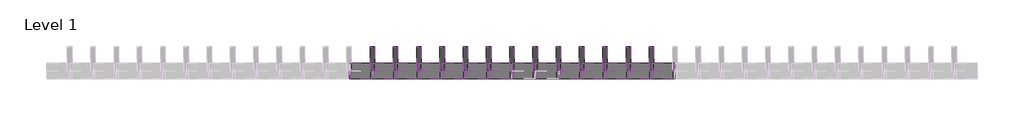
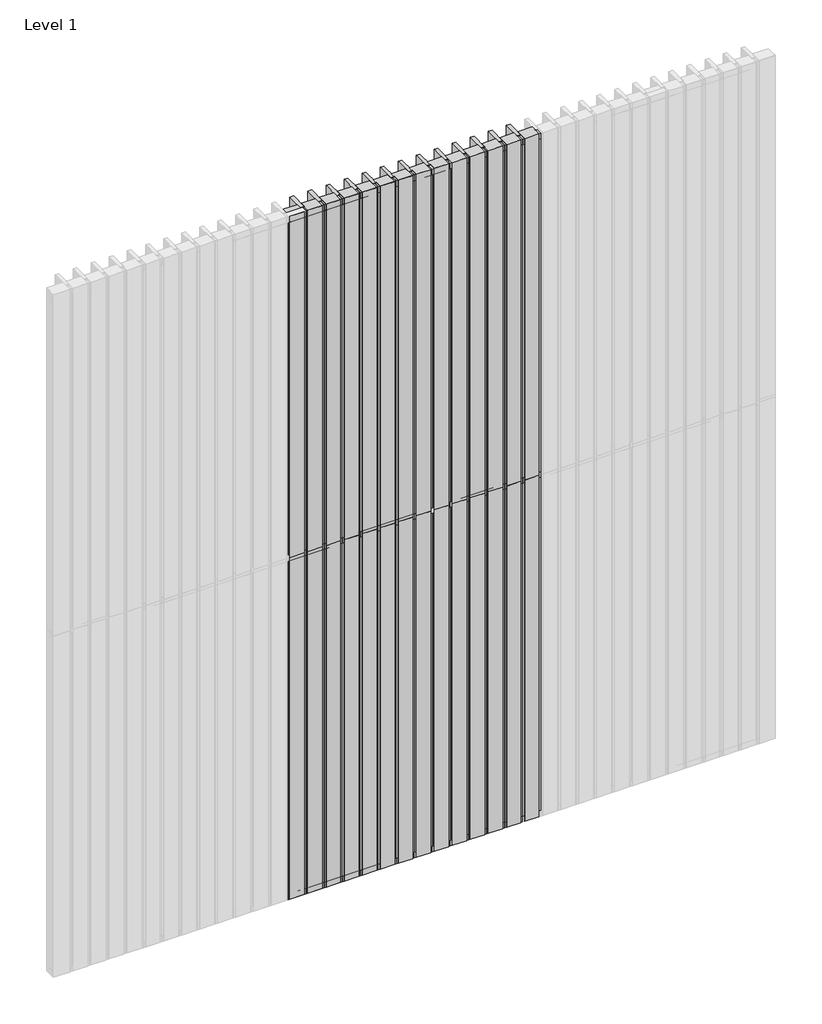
# One storey, part 2 of 3: 63 members, 56 plates.
"""IFC4 building model written with IfcOpenShell, lengths in millimetres."""

from ifc_helpers import new_model, si_unit, origin, place, context, project, spatial, transform, mapped, element, save
from components import rectangular_mullion_4e9be6f4, rectangular_mullion_6265e8b1, rectangular_mullion_64cc6fdd, rectangular_mullion_eb4a5411, empty_system_panel_empty_cb8e8c2e, empty_system_panel_empty_64907904

model = new_model("IFC4")

# Units and contexts
model_context = context("Model", 3, world=origin())
ifc_project = project(units=[si_unit("LENGTHUNIT", "METRE", prefix="MILLI")], contexts=[model_context])

# Site, building, storey
site = spatial("IfcSite", under=ifc_project)
building = spatial("IfcBuilding", under=site)
storey = spatial("IfcBuildingStorey", under=building, Name="Level 1", Elevation=0.0)

# Members
placement = place(None, origin())
rectangular_mullion_shape = rectangular_mullion_4e9be6f4(model_context)
element("IfcMember", 1, ObjectType="Rectangular Mullion : RSen_21_CWM_blade - cubic 150 - 0°_gen_duco projects", at=placement, inside=storey, context=model_context, shape_type="MappedRepresentation", body=[
    mapped(rectangular_mullion_shape, transform((3900.0, 3000.0, 0.0), x_axis=(-1.0, 0.0, 0.0), y_axis=(0.0, 1.0, 0.0), z_axis=(0.0, 0.0, -1.0))),
])
element("IfcMember", 2, ObjectType="Rectangular Mullion : RSen_21_CWM_blade - cubic 150 - 0°_gen_duco projects", at=placement, inside=storey, context=model_context, shape_type="MappedRepresentation", body=[
    mapped(rectangular_mullion_shape, transform((3750.0, 3000.0, 0.0), x_axis=(-1.0, 0.0, 0.0), y_axis=(0.0, 1.0, 0.0), z_axis=(0.0, 0.0, -1.0))),
])
element("IfcMember", 3, ObjectType="Rectangular Mullion : RSen_21_CWM_blade - cubic 150 - 0°_gen_duco projects", at=placement, inside=storey, context=model_context, shape_type="MappedRepresentation", body=[
    mapped(rectangular_mullion_shape, transform((3600.0, 3000.0, 0.0), x_axis=(-1.0, 0.0, 0.0), y_axis=(0.0, 1.0, 0.0), z_axis=(0.0, 0.0, -1.0))),
])
element("IfcMember", 4, ObjectType="Rectangular Mullion : RSen_21_CWM_blade - cubic 150 - 0°_gen_duco projects", at=placement, inside=storey, context=model_context, shape_type="MappedRepresentation", body=[
    mapped(rectangular_mullion_shape, transform((3450.0, 3000.0, 0.0), x_axis=(-1.0, 0.0, 0.0), y_axis=(0.0, 1.0, 0.0), z_axis=(0.0, 0.0, -1.0))),
])
element("IfcMember", 5, ObjectType="Rectangular Mullion : RSen_21_CWM_blade - cubic 150 - 0°_gen_duco projects", at=placement, inside=storey, context=model_context, shape_type="MappedRepresentation", body=[
    mapped(rectangular_mullion_shape, transform((3300.0, 3000.0, 0.0), x_axis=(-1.0, 0.0, 0.0), y_axis=(0.0, 1.0, 0.0), z_axis=(0.0, 0.0, -1.0))),
])
element("IfcMember", 6, ObjectType="Rectangular Mullion : RSen_21_CWM_blade - cubic 150 - 0°_gen_duco projects", at=placement, inside=storey, context=model_context, shape_type="MappedRepresentation", body=[
    mapped(rectangular_mullion_shape, transform((3150.0, 3000.0, 0.0), x_axis=(-1.0, 0.0, 0.0), y_axis=(0.0, 1.0, 0.0), z_axis=(0.0, 0.0, -1.0))),
])
element("IfcMember", 7, ObjectType="Rectangular Mullion : RSen_21_CWM_blade - cubic 150 - 0°_gen_duco projects", at=placement, inside=storey, context=model_context, shape_type="MappedRepresentation", body=[
    mapped(rectangular_mullion_shape, transform((3000.0, 3000.0, 0.0), x_axis=(-1.0, 0.0, 0.0), y_axis=(0.0, 1.0, 0.0), z_axis=(0.0, 0.0, -1.0))),
])
element("IfcMember", 8, ObjectType="Rectangular Mullion : RSen_21_CWM_blade - cubic 150 - 0°_gen_duco projects", at=placement, inside=storey, context=model_context, shape_type="MappedRepresentation", body=[
    mapped(rectangular_mullion_shape, transform((2850.0, 3000.0, 0.0), x_axis=(-1.0, 0.0, 0.0), y_axis=(0.0, 1.0, 0.0), z_axis=(0.0, 0.0, -1.0))),
])
element("IfcMember", 9, ObjectType="Rectangular Mullion : RSen_21_CWM_blade - cubic 150 - 0°_gen_duco projects", at=placement, inside=storey, context=model_context, shape_type="MappedRepresentation", body=[
    mapped(rectangular_mullion_shape, transform((2700.0, 3000.0, 0.0), x_axis=(-1.0, 0.0, 0.0), y_axis=(0.0, 1.0, 0.0), z_axis=(0.0, 0.0, -1.0))),
])
element("IfcMember", 10, ObjectType="Rectangular Mullion : RSen_21_CWM_blade - cubic 150 - 0°_gen_duco projects", at=placement, inside=storey, context=model_context, shape_type="MappedRepresentation", body=[
    mapped(rectangular_mullion_shape, transform((2550.0, 3000.0, 0.0), x_axis=(-1.0, 0.0, 0.0), y_axis=(0.0, 1.0, 0.0), z_axis=(0.0, 0.0, -1.0))),
])
element("IfcMember", 11, ObjectType="Rectangular Mullion : RSen_21_CWM_blade - cubic 150 - 0°_gen_duco projects", at=placement, inside=storey, context=model_context, shape_type="MappedRepresentation", body=[
    mapped(rectangular_mullion_shape, transform((2400.0, 3000.0, 0.0), x_axis=(-1.0, 0.0, 0.0), y_axis=(0.0, 1.0, 0.0), z_axis=(0.0, 0.0, -1.0))),
])
element("IfcMember", 12, ObjectType="Rectangular Mullion : RSen_21_CWM_blade - cubic 150 - 0°_gen_duco projects", at=placement, inside=storey, context=model_context, shape_type="MappedRepresentation", body=[
    mapped(rectangular_mullion_shape, transform((2250.0, 3000.0, 0.0), x_axis=(-1.0, 0.0, 0.0), y_axis=(0.0, 1.0, 0.0), z_axis=(0.0, 0.0, -1.0))),
])
element("IfcMember", 13, ObjectType="Rectangular Mullion : RSen_21_CWM_blade - cubic 150 - 0°_gen_duco projects", at=placement, inside=storey, context=model_context, shape_type="MappedRepresentation", body=[
    mapped(rectangular_mullion_shape, transform((2100.0, 3000.0, 0.0), x_axis=(-1.0, 0.0, 0.0), y_axis=(0.0, 1.0, 0.0), z_axis=(0.0, 0.0, -1.0))),
])
element("IfcMember", 14, ObjectType="Rectangular Mullion : RSen_21_CWM_blade - cubic 150 - 0°_gen_duco projects", at=placement, inside=storey, context=model_context, shape_type="MappedRepresentation", body=[
    mapped(rectangular_mullion_shape, transform((3900.0, 3000.0, 3000.0), x_axis=(-1.0, 0.0, 0.0), y_axis=(0.0, 1.0, 0.0), z_axis=(0.0, 0.0, -1.0))),
])
element("IfcMember", 15, ObjectType="Rectangular Mullion : RSen_21_CWM_blade - cubic 150 - 0°_gen_duco projects", at=placement, inside=storey, context=model_context, shape_type="MappedRepresentation", body=[
    mapped(rectangular_mullion_shape, transform((3750.0, 3000.0, 3000.0), x_axis=(-1.0, 0.0, 0.0), y_axis=(0.0, 1.0, 0.0), z_axis=(0.0, 0.0, -1.0))),
])
element("IfcMember", 16, ObjectType="Rectangular Mullion : RSen_21_CWM_blade - cubic 150 - 0°_gen_duco projects", at=placement, inside=storey, context=model_context, shape_type="MappedRepresentation", body=[
    mapped(rectangular_mullion_shape, transform((3600.0, 3000.0, 3000.0), x_axis=(-1.0, 0.0, 0.0), y_axis=(0.0, 1.0, 0.0), z_axis=(0.0, 0.0, -1.0))),
])
element("IfcMember", 17, ObjectType="Rectangular Mullion : RSen_21_CWM_blade - cubic 150 - 0°_gen_duco projects", at=placement, inside=storey, context=model_context, shape_type="MappedRepresentation", body=[
    mapped(rectangular_mullion_shape, transform((3450.0, 3000.0, 3000.0), x_axis=(-1.0, 0.0, 0.0), y_axis=(0.0, 1.0, 0.0), z_axis=(0.0, 0.0, -1.0))),
])
element("IfcMember", 18, ObjectType="Rectangular Mullion : RSen_21_CWM_blade - cubic 150 - 0°_gen_duco projects", at=placement, inside=storey, context=model_context, shape_type="MappedRepresentation", body=[
    mapped(rectangular_mullion_shape, transform((3300.0, 3000.0, 3000.0), x_axis=(-1.0, 0.0, 0.0), y_axis=(0.0, 1.0, 0.0), z_axis=(0.0, 0.0, -1.0))),
])
element("IfcMember", 19, ObjectType="Rectangular Mullion : RSen_21_CWM_blade - cubic 150 - 0°_gen_duco projects", at=placement, inside=storey, context=model_context, shape_type="MappedRepresentation", body=[
    mapped(rectangular_mullion_shape, transform((3150.0, 3000.0, 3000.0), x_axis=(-1.0, 0.0, 0.0), y_axis=(0.0, 1.0, 0.0), z_axis=(0.0, 0.0, -1.0))),
])
element("IfcMember", 20, ObjectType="Rectangular Mullion : RSen_21_CWM_blade - cubic 150 - 0°_gen_duco projects", at=placement, inside=storey, context=model_context, shape_type="MappedRepresentation", body=[
    mapped(rectangular_mullion_shape, transform((3000.0, 3000.0, 3000.0), x_axis=(-1.0, 0.0, 0.0), y_axis=(0.0, 1.0, 0.0), z_axis=(0.0, 0.0, -1.0))),
])
element("IfcMember", 21, ObjectType="Rectangular Mullion : RSen_21_CWM_blade - cubic 150 - 0°_gen_duco projects", at=placement, inside=storey, context=model_context, shape_type="MappedRepresentation", body=[
    mapped(rectangular_mullion_shape, transform((2850.0, 3000.0, 3000.0), x_axis=(-1.0, 0.0, 0.0), y_axis=(0.0, 1.0, 0.0), z_axis=(0.0, 0.0, -1.0))),
])
element("IfcMember", 22, ObjectType="Rectangular Mullion : RSen_21_CWM_blade - cubic 150 - 0°_gen_duco projects", at=placement, inside=storey, context=model_context, shape_type="MappedRepresentation", body=[
    mapped(rectangular_mullion_shape, transform((2700.0, 3000.0, 3000.0), x_axis=(-1.0, 0.0, 0.0), y_axis=(0.0, 1.0, 0.0), z_axis=(0.0, 0.0, -1.0))),
])
element("IfcMember", 23, ObjectType="Rectangular Mullion : RSen_21_CWM_blade - cubic 150 - 0°_gen_duco projects", at=placement, inside=storey, context=model_context, shape_type="MappedRepresentation", body=[
    mapped(rectangular_mullion_shape, transform((2550.0, 3000.0, 3000.0), x_axis=(-1.0, 0.0, 0.0), y_axis=(0.0, 1.0, 0.0), z_axis=(0.0, 0.0, -1.0))),
])
element("IfcMember", 24, ObjectType="Rectangular Mullion : RSen_21_CWM_blade - cubic 150 - 0°_gen_duco projects", at=placement, inside=storey, context=model_context, shape_type="MappedRepresentation", body=[
    mapped(rectangular_mullion_shape, transform((2400.0, 3000.0, 3000.0), x_axis=(-1.0, 0.0, 0.0), y_axis=(0.0, 1.0, 0.0), z_axis=(0.0, 0.0, -1.0))),
])
element("IfcMember", 25, ObjectType="Rectangular Mullion : RSen_21_CWM_blade - cubic 150 - 0°_gen_duco projects", at=placement, inside=storey, context=model_context, shape_type="MappedRepresentation", body=[
    mapped(rectangular_mullion_shape, transform((2250.0, 3000.0, 3000.0), x_axis=(-1.0, 0.0, 0.0), y_axis=(0.0, 1.0, 0.0), z_axis=(0.0, 0.0, -1.0))),
])
element("IfcMember", 26, ObjectType="Rectangular Mullion : RSen_21_CWM_blade - cubic 150 - 0°_gen_duco projects", at=placement, inside=storey, context=model_context, shape_type="MappedRepresentation", body=[
    mapped(rectangular_mullion_shape, transform((2100.0, 3000.0, 3000.0), x_axis=(-1.0, 0.0, 0.0), y_axis=(0.0, 1.0, 0.0), z_axis=(0.0, 0.0, -1.0))),
])
rectangular_mullion_2_shape = rectangular_mullion_6265e8b1(model_context)
element("IfcMember", 27, ObjectType="Rectangular Mullion : RSen_21_CWM_support profile 50x50 - left_gen_duco projects", at=placement, inside=storey, context=model_context, shape_type="MappedRepresentation", body=[
    mapped(rectangular_mullion_2_shape, transform((3900.0, 3000.0, 6000.0), x_axis=(0.0, 0.0, 1.0), y_axis=(0.0, 1.0, 0.0), z_axis=(-1.0, 0.0, 0.0))),
])
element("IfcMember", 28, ObjectType="Rectangular Mullion : RSen_21_CWM_support profile 50x50 - left_gen_duco projects", at=placement, inside=storey, context=model_context, shape_type="MappedRepresentation", body=[
    mapped(rectangular_mullion_2_shape, transform((3750.0, 3000.0, 6000.0), x_axis=(0.0, 0.0, 1.0), y_axis=(0.0, 1.0, 0.0), z_axis=(-1.0, 0.0, 0.0))),
])
element("IfcMember", 29, ObjectType="Rectangular Mullion : RSen_21_CWM_support profile 50x50 - left_gen_duco projects", at=placement, inside=storey, context=model_context, shape_type="MappedRepresentation", body=[
    mapped(rectangular_mullion_2_shape, transform((3600.0, 3000.0, 6000.0), x_axis=(0.0, 0.0, 1.0), y_axis=(0.0, 1.0, 0.0), z_axis=(-1.0, 0.0, 0.0))),
])
element("IfcMember", 30, ObjectType="Rectangular Mullion : RSen_21_CWM_support profile 50x50 - left_gen_duco projects", at=placement, inside=storey, context=model_context, shape_type="MappedRepresentation", body=[
    mapped(rectangular_mullion_2_shape, transform((3450.0, 3000.0, 6000.0), x_axis=(0.0, 0.0, 1.0), y_axis=(0.0, 1.0, 0.0), z_axis=(-1.0, 0.0, 0.0))),
])
element("IfcMember", 31, ObjectType="Rectangular Mullion : RSen_21_CWM_support profile 50x50 - left_gen_duco projects", at=placement, inside=storey, context=model_context, shape_type="MappedRepresentation", body=[
    mapped(rectangular_mullion_2_shape, transform((3300.0, 3000.0, 6000.0), x_axis=(0.0, 0.0, 1.0), y_axis=(0.0, 1.0, 0.0), z_axis=(-1.0, 0.0, 0.0))),
])
element("IfcMember", 32, ObjectType="Rectangular Mullion : RSen_21_CWM_support profile 50x50 - left_gen_duco projects", at=placement, inside=storey, context=model_context, shape_type="MappedRepresentation", body=[
    mapped(rectangular_mullion_2_shape, transform((3150.0, 3000.0, 6000.0), x_axis=(0.0, 0.0, 1.0), y_axis=(0.0, 1.0, 0.0), z_axis=(-1.0, 0.0, 0.0))),
])
element("IfcMember", 33, ObjectType="Rectangular Mullion : RSen_21_CWM_support profile 50x50 - left_gen_duco projects", at=placement, inside=storey, context=model_context, shape_type="MappedRepresentation", body=[
    mapped(rectangular_mullion_2_shape, transform((3000.0, 3000.0, 6000.0), x_axis=(0.0, 0.0, 1.0), y_axis=(0.0, 1.0, 0.0), z_axis=(-1.0, 0.0, 0.0))),
])
element("IfcMember", 34, ObjectType="Rectangular Mullion : RSen_21_CWM_support profile 50x50 - left_gen_duco projects", at=placement, inside=storey, context=model_context, shape_type="MappedRepresentation", body=[
    mapped(rectangular_mullion_2_shape, transform((2850.0, 3000.0, 6000.0), x_axis=(0.0, 0.0, 1.0), y_axis=(0.0, 1.0, 0.0), z_axis=(-1.0, 0.0, 0.0))),
])
element("IfcMember", 35, ObjectType="Rectangular Mullion : RSen_21_CWM_support profile 50x50 - left_gen_duco projects", at=placement, inside=storey, context=model_context, shape_type="MappedRepresentation", body=[
    mapped(rectangular_mullion_2_shape, transform((2700.0, 3000.0, 6000.0), x_axis=(0.0, 0.0, 1.0), y_axis=(0.0, 1.0, 0.0), z_axis=(-1.0, 0.0, 0.0))),
])
element("IfcMember", 36, ObjectType="Rectangular Mullion : RSen_21_CWM_support profile 50x50 - left_gen_duco projects", at=placement, inside=storey, context=model_context, shape_type="MappedRepresentation", body=[
    mapped(rectangular_mullion_2_shape, transform((2550.0, 3000.0, 6000.0), x_axis=(0.0, 0.0, 1.0), y_axis=(0.0, 1.0, 0.0), z_axis=(-1.0, 0.0, 0.0))),
])
element("IfcMember", 37, ObjectType="Rectangular Mullion : RSen_21_CWM_support profile 50x50 - left_gen_duco projects", at=placement, inside=storey, context=model_context, shape_type="MappedRepresentation", body=[
    mapped(rectangular_mullion_2_shape, transform((2400.0, 3000.0, 6000.0), x_axis=(0.0, 0.0, 1.0), y_axis=(0.0, 1.0, 0.0), z_axis=(-1.0, 0.0, 0.0))),
])
element("IfcMember", 38, ObjectType="Rectangular Mullion : RSen_21_CWM_support profile 50x50 - left_gen_duco projects", at=placement, inside=storey, context=model_context, shape_type="MappedRepresentation", body=[
    mapped(rectangular_mullion_2_shape, transform((2250.0, 3000.0, 6000.0), x_axis=(0.0, 0.0, 1.0), y_axis=(0.0, 1.0, 0.0), z_axis=(-1.0, 0.0, 0.0))),
])
element("IfcMember", 39, ObjectType="Rectangular Mullion : RSen_21_CWM_support profile 50x50 - left_gen_duco projects", at=placement, inside=storey, context=model_context, shape_type="MappedRepresentation", body=[
    mapped(rectangular_mullion_2_shape, transform((2100.0, 3000.0, 6000.0), x_axis=(0.0, 0.0, 1.0), y_axis=(0.0, 1.0, 0.0), z_axis=(-1.0, 0.0, 0.0))),
])
rectangular_mullion_3_shape = rectangular_mullion_64cc6fdd(model_context)
element("IfcMember", 40, ObjectType="Rectangular Mullion : RSen_21_CWM_support profile 50x50 - right_gen_duco projects", at=placement, inside=storey, context=model_context, shape_type="MappedRepresentation", body=[
    mapped(rectangular_mullion_3_shape, transform((3900.0, 3000.0, 0.0), x_axis=(0.0, 0.0, -1.0), y_axis=(0.0, 1.0, 0.0), z_axis=(1.0, 0.0, 0.0))),
])
element("IfcMember", 41, ObjectType="Rectangular Mullion : RSen_21_CWM_support profile 50x50 - right_gen_duco projects", at=placement, inside=storey, context=model_context, shape_type="MappedRepresentation", body=[
    mapped(rectangular_mullion_3_shape, transform((3750.0, 3000.0, 0.0), x_axis=(0.0, 0.0, -1.0), y_axis=(0.0, 1.0, 0.0), z_axis=(1.0, 0.0, 0.0))),
])
element("IfcMember", 42, ObjectType="Rectangular Mullion : RSen_21_CWM_support profile 50x50 - right_gen_duco projects", at=placement, inside=storey, context=model_context, shape_type="MappedRepresentation", body=[
    mapped(rectangular_mullion_3_shape, transform((3600.0, 3000.0, 0.0), x_axis=(0.0, 0.0, -1.0), y_axis=(0.0, 1.0, 0.0), z_axis=(1.0, 0.0, 0.0))),
])
element("IfcMember", 43, ObjectType="Rectangular Mullion : RSen_21_CWM_support profile 50x50 - right_gen_duco projects", at=placement, inside=storey, context=model_context, shape_type="MappedRepresentation", body=[
    mapped(rectangular_mullion_3_shape, transform((3450.0, 3000.0, 0.0), x_axis=(0.0, 0.0, -1.0), y_axis=(0.0, 1.0, 0.0), z_axis=(1.0, 0.0, 0.0))),
])
element("IfcMember", 44, ObjectType="Rectangular Mullion : RSen_21_CWM_support profile 50x50 - right_gen_duco projects", at=placement, inside=storey, context=model_context, shape_type="MappedRepresentation", body=[
    mapped(rectangular_mullion_3_shape, transform((3300.0, 3000.0, 0.0), x_axis=(0.0, 0.0, -1.0), y_axis=(0.0, 1.0, 0.0), z_axis=(1.0, 0.0, 0.0))),
])
element("IfcMember", 45, ObjectType="Rectangular Mullion : RSen_21_CWM_support profile 50x50 - right_gen_duco projects", at=placement, inside=storey, context=model_context, shape_type="MappedRepresentation", body=[
    mapped(rectangular_mullion_3_shape, transform((3150.0, 3000.0, 0.0), x_axis=(0.0, 0.0, -1.0), y_axis=(0.0, 1.0, 0.0), z_axis=(1.0, 0.0, 0.0))),
])
element("IfcMember", 46, ObjectType="Rectangular Mullion : RSen_21_CWM_support profile 50x50 - right_gen_duco projects", at=placement, inside=storey, context=model_context, shape_type="MappedRepresentation", body=[
    mapped(rectangular_mullion_3_shape, transform((3000.0, 3000.0, 0.0), x_axis=(0.0, 0.0, -1.0), y_axis=(0.0, 1.0, 0.0), z_axis=(1.0, 0.0, 0.0))),
])
element("IfcMember", 47, ObjectType="Rectangular Mullion : RSen_21_CWM_support profile 50x50 - right_gen_duco projects", at=placement, inside=storey, context=model_context, shape_type="MappedRepresentation", body=[
    mapped(rectangular_mullion_3_shape, transform((2850.0, 3000.0, 0.0), x_axis=(0.0, 0.0, -1.0), y_axis=(0.0, 1.0, 0.0), z_axis=(1.0, 0.0, 0.0))),
])
element("IfcMember", 48, ObjectType="Rectangular Mullion : RSen_21_CWM_support profile 50x50 - right_gen_duco projects", at=placement, inside=storey, context=model_context, shape_type="MappedRepresentation", body=[
    mapped(rectangular_mullion_3_shape, transform((2700.0, 3000.0, 0.0), x_axis=(0.0, 0.0, -1.0), y_axis=(0.0, 1.0, 0.0), z_axis=(1.0, 0.0, 0.0))),
])
element("IfcMember", 49, ObjectType="Rectangular Mullion : RSen_21_CWM_support profile 50x50 - right_gen_duco projects", at=placement, inside=storey, context=model_context, shape_type="MappedRepresentation", body=[
    mapped(rectangular_mullion_3_shape, transform((2550.0, 3000.0, 0.0), x_axis=(0.0, 0.0, -1.0), y_axis=(0.0, 1.0, 0.0), z_axis=(1.0, 0.0, 0.0))),
])
element("IfcMember", 50, ObjectType="Rectangular Mullion : RSen_21_CWM_support profile 50x50 - right_gen_duco projects", at=placement, inside=storey, context=model_context, shape_type="MappedRepresentation", body=[
    mapped(rectangular_mullion_3_shape, transform((2400.0, 3000.0, 0.0), x_axis=(0.0, 0.0, -1.0), y_axis=(0.0, 1.0, 0.0), z_axis=(1.0, 0.0, 0.0))),
])
element("IfcMember", 51, ObjectType="Rectangular Mullion : RSen_21_CWM_support profile 50x50 - right_gen_duco projects", at=placement, inside=storey, context=model_context, shape_type="MappedRepresentation", body=[
    mapped(rectangular_mullion_3_shape, transform((2250.0, 3000.0, 0.0), x_axis=(0.0, 0.0, -1.0), y_axis=(0.0, 1.0, 0.0), z_axis=(1.0, 0.0, 0.0))),
])
element("IfcMember", 52, ObjectType="Rectangular Mullion : RSen_21_CWM_support profile 50x50 - right_gen_duco projects", at=placement, inside=storey, context=model_context, shape_type="MappedRepresentation", body=[
    mapped(rectangular_mullion_3_shape, transform((2100.0, 3000.0, 0.0), x_axis=(0.0, 0.0, -1.0), y_axis=(0.0, 1.0, 0.0), z_axis=(1.0, 0.0, 0.0))),
])
rectangular_mullion_4_shape = rectangular_mullion_eb4a5411(model_context)
element("IfcMember", 53, ObjectType="Rectangular Mullion : RSen_21_CWM_support profile 50x50_gen_duco projects", at=placement, inside=storey, context=model_context, shape_type="MappedRepresentation", body=[
    mapped(rectangular_mullion_4_shape, transform((3900.0, 3000.0, 3000.0), x_axis=(0.0, 0.0, 1.0), y_axis=(0.0, 1.0, 0.0), z_axis=(-1.0, 0.0, 0.0))),
])
element("IfcMember", 54, ObjectType="Rectangular Mullion : RSen_21_CWM_support profile 50x50_gen_duco projects", at=placement, inside=storey, context=model_context, shape_type="MappedRepresentation", body=[
    mapped(rectangular_mullion_4_shape, transform((3750.0, 3000.0, 3000.0), x_axis=(0.0, 0.0, 1.0), y_axis=(0.0, 1.0, 0.0), z_axis=(-1.0, 0.0, 0.0))),
])
element("IfcMember", 55, ObjectType="Rectangular Mullion : RSen_21_CWM_support profile 50x50_gen_duco projects", at=placement, inside=storey, context=model_context, shape_type="MappedRepresentation", body=[
    mapped(rectangular_mullion_4_shape, transform((3600.0, 3000.0, 3000.0), x_axis=(0.0, 0.0, 1.0), y_axis=(0.0, 1.0, 0.0), z_axis=(-1.0, 0.0, 0.0))),
])
element("IfcMember", 56, ObjectType="Rectangular Mullion : RSen_21_CWM_support profile 50x50_gen_duco projects", at=placement, inside=storey, context=model_context, shape_type="MappedRepresentation", body=[
    mapped(rectangular_mullion_4_shape, transform((3450.0, 3000.0, 3000.0), x_axis=(0.0, 0.0, 1.0), y_axis=(0.0, 1.0, 0.0), z_axis=(-1.0, 0.0, 0.0))),
])
element("IfcMember", 57, ObjectType="Rectangular Mullion : RSen_21_CWM_support profile 50x50_gen_duco projects", at=placement, inside=storey, context=model_context, shape_type="MappedRepresentation", body=[
    mapped(rectangular_mullion_4_shape, transform((3300.0, 3000.0, 3000.0), x_axis=(0.0, 0.0, 1.0), y_axis=(0.0, 1.0, 0.0), z_axis=(-1.0, 0.0, 0.0))),
])
element("IfcMember", 58, ObjectType="Rectangular Mullion : RSen_21_CWM_support profile 50x50_gen_duco projects", at=placement, inside=storey, context=model_context, shape_type="MappedRepresentation", body=[
    mapped(rectangular_mullion_4_shape, transform((2850.0, 3000.0, 3000.0), x_axis=(0.0, 0.0, 1.0), y_axis=(0.0, 1.0, 0.0), z_axis=(-1.0, 0.0, 0.0))),
])
element("IfcMember", 59, ObjectType="Rectangular Mullion : RSen_21_CWM_support profile 50x50_gen_duco projects", at=placement, inside=storey, context=model_context, shape_type="MappedRepresentation", body=[
    mapped(rectangular_mullion_4_shape, transform((2700.0, 3000.0, 3000.0), x_axis=(0.0, 0.0, 1.0), y_axis=(0.0, 1.0, 0.0), z_axis=(-1.0, 0.0, 0.0))),
])
element("IfcMember", 60, ObjectType="Rectangular Mullion : RSen_21_CWM_support profile 50x50_gen_duco projects", at=placement, inside=storey, context=model_context, shape_type="MappedRepresentation", body=[
    mapped(rectangular_mullion_4_shape, transform((2550.0, 3000.0, 3000.0), x_axis=(0.0, 0.0, 1.0), y_axis=(0.0, 1.0, 0.0), z_axis=(-1.0, 0.0, 0.0))),
])
element("IfcMember", 61, ObjectType="Rectangular Mullion : RSen_21_CWM_support profile 50x50_gen_duco projects", at=placement, inside=storey, context=model_context, shape_type="MappedRepresentation", body=[
    mapped(rectangular_mullion_4_shape, transform((2400.0, 3000.0, 3000.0), x_axis=(0.0, 0.0, 1.0), y_axis=(0.0, 1.0, 0.0), z_axis=(-1.0, 0.0, 0.0))),
])
element("IfcMember", 62, ObjectType="Rectangular Mullion : RSen_21_CWM_support profile 50x50_gen_duco projects", at=placement, inside=storey, context=model_context, shape_type="MappedRepresentation", body=[
    mapped(rectangular_mullion_4_shape, transform((2250.0, 3000.0, 3000.0), x_axis=(0.0, 0.0, 1.0), y_axis=(0.0, 1.0, 0.0), z_axis=(-1.0, 0.0, 0.0))),
])
element("IfcMember", 63, ObjectType="Rectangular Mullion : RSen_21_CWM_support profile 50x50_gen_duco projects", at=placement, inside=storey, context=model_context, shape_type="MappedRepresentation", body=[
    mapped(rectangular_mullion_4_shape, transform((2100.0, 3000.0, 3000.0), x_axis=(0.0, 0.0, 1.0), y_axis=(0.0, 1.0, 0.0), z_axis=(-1.0, 0.0, 0.0))),
])

# Plates
empty_system_panel_empty_shape = empty_system_panel_empty_cb8e8c2e(model_context)
element("IfcPlate", 64, ObjectType="Empty System Panel : Empty", at=placement, inside=storey, context=model_context, shape_type="MappedRepresentation", body=[
    mapped(empty_system_panel_empty_shape, transform((3975.0, 3000.0, 0.0), x_axis=(-1.0, 0.0, 0.0), y_axis=(0.0, -1.0, 0.0), z_axis=(0.0, 0.0, 1.0))),
])
element("IfcPlate", 65, ObjectType="Empty System Panel : Empty", at=placement, inside=storey, context=model_context, shape_type="MappedRepresentation", body=[
    mapped(empty_system_panel_empty_shape, transform((3825.0, 3000.0, 0.0), x_axis=(-1.0, 0.0, 0.0), y_axis=(0.0, -1.0, 0.0), z_axis=(0.0, 0.0, 1.0))),
])
element("IfcPlate", 66, ObjectType="Empty System Panel : Empty", at=placement, inside=storey, context=model_context, shape_type="MappedRepresentation", body=[
    mapped(empty_system_panel_empty_shape, transform((3675.0, 3000.0, 0.0), x_axis=(-1.0, 0.0, 0.0), y_axis=(0.0, -1.0, 0.0), z_axis=(0.0, 0.0, 1.0))),
])
element("IfcPlate", 67, ObjectType="Empty System Panel : Empty", at=placement, inside=storey, context=model_context, shape_type="MappedRepresentation", body=[
    mapped(empty_system_panel_empty_shape, transform((3525.0, 3000.0, 0.0), x_axis=(-1.0, 0.0, 0.0), y_axis=(0.0, -1.0, 0.0), z_axis=(0.0, 0.0, 1.0))),
])
element("IfcPlate", 68, ObjectType="Empty System Panel : Empty", at=placement, inside=storey, context=model_context, shape_type="MappedRepresentation", body=[
    mapped(empty_system_panel_empty_shape, transform((3375.0, 3000.0, 0.0), x_axis=(-1.0, 0.0, 0.0), y_axis=(0.0, -1.0, 0.0), z_axis=(0.0, 0.0, 1.0))),
])
element("IfcPlate", 69, ObjectType="Empty System Panel : Empty", at=placement, inside=storey, context=model_context, shape_type="MappedRepresentation", body=[
    mapped(empty_system_panel_empty_shape, transform((3225.0, 3000.0, 0.0), x_axis=(-1.0, 0.0, 0.0), y_axis=(0.0, -1.0, 0.0), z_axis=(0.0, 0.0, 1.0))),
])
element("IfcPlate", 70, ObjectType="Empty System Panel : Empty", at=placement, inside=storey, context=model_context, shape_type="MappedRepresentation", body=[
    mapped(empty_system_panel_empty_shape, transform((3075.0, 3000.0, 0.0), x_axis=(-1.0, 0.0, 0.0), y_axis=(0.0, -1.0, 0.0), z_axis=(0.0, 0.0, 1.0))),
])
element("IfcPlate", 71, ObjectType="Empty System Panel : Empty", at=placement, inside=storey, context=model_context, shape_type="MappedRepresentation", body=[
    mapped(empty_system_panel_empty_shape, transform((2925.0, 3000.0, 0.0), x_axis=(-1.0, 0.0, 0.0), y_axis=(0.0, -1.0, 0.0), z_axis=(0.0, 0.0, 1.0))),
])
element("IfcPlate", 72, ObjectType="Empty System Panel : Empty", at=placement, inside=storey, context=model_context, shape_type="MappedRepresentation", body=[
    mapped(empty_system_panel_empty_shape, transform((2775.0, 3000.0, 0.0), x_axis=(-1.0, 0.0, 0.0), y_axis=(0.0, -1.0, 0.0), z_axis=(0.0, 0.0, 1.0))),
])
element("IfcPlate", 73, ObjectType="Empty System Panel : Empty", at=placement, inside=storey, context=model_context, shape_type="MappedRepresentation", body=[
    mapped(empty_system_panel_empty_shape, transform((2625.0, 3000.0, 0.0), x_axis=(-1.0, 0.0, 0.0), y_axis=(0.0, -1.0, 0.0), z_axis=(0.0, 0.0, 1.0))),
])
element("IfcPlate", 74, ObjectType="Empty System Panel : Empty", at=placement, inside=storey, context=model_context, shape_type="MappedRepresentation", body=[
    mapped(empty_system_panel_empty_shape, transform((2475.0, 3000.0, 0.0), x_axis=(-1.0, 0.0, 0.0), y_axis=(0.0, -1.0, 0.0), z_axis=(0.0, 0.0, 1.0))),
])
element("IfcPlate", 75, ObjectType="Empty System Panel : Empty", at=placement, inside=storey, context=model_context, shape_type="MappedRepresentation", body=[
    mapped(empty_system_panel_empty_shape, transform((2325.0, 3000.0, 0.0), x_axis=(-1.0, 0.0, 0.0), y_axis=(0.0, -1.0, 0.0), z_axis=(0.0, 0.0, 1.0))),
])
element("IfcPlate", 76, ObjectType="Empty System Panel : Empty", at=placement, inside=storey, context=model_context, shape_type="MappedRepresentation", body=[
    mapped(empty_system_panel_empty_shape, transform((2175.0, 3000.0, 0.0), x_axis=(-1.0, 0.0, 0.0), y_axis=(0.0, -1.0, 0.0), z_axis=(0.0, 0.0, 1.0))),
])
element("IfcPlate", 77, ObjectType="Empty System Panel : Empty", at=placement, inside=storey, context=model_context, shape_type="MappedRepresentation", body=[
    mapped(empty_system_panel_empty_shape, transform((2025.0, 3000.0, 0.0), x_axis=(-1.0, 0.0, 0.0), y_axis=(0.0, -1.0, 0.0), z_axis=(0.0, 0.0, 1.0))),
])
element("IfcPlate", 78, ObjectType="Empty System Panel : Empty", at=placement, inside=storey, context=model_context, shape_type="MappedRepresentation", body=[
    mapped(empty_system_panel_empty_shape, transform((3975.0, 3000.0, 3000.0), x_axis=(-1.0, 0.0, 0.0), y_axis=(0.0, -1.0, 0.0), z_axis=(0.0, 0.0, 1.0))),
])
element("IfcPlate", 79, ObjectType="Empty System Panel : Empty", at=placement, inside=storey, context=model_context, shape_type="MappedRepresentation", body=[
    mapped(empty_system_panel_empty_shape, transform((3825.0, 3000.0, 3000.0), x_axis=(-1.0, 0.0, 0.0), y_axis=(0.0, -1.0, 0.0), z_axis=(0.0, 0.0, 1.0))),
])
element("IfcPlate", 80, ObjectType="Empty System Panel : Empty", at=placement, inside=storey, context=model_context, shape_type="MappedRepresentation", body=[
    mapped(empty_system_panel_empty_shape, transform((3675.0, 3000.0, 3000.0), x_axis=(-1.0, 0.0, 0.0), y_axis=(0.0, -1.0, 0.0), z_axis=(0.0, 0.0, 1.0))),
])
element("IfcPlate", 81, ObjectType="Empty System Panel : Empty", at=placement, inside=storey, context=model_context, shape_type="MappedRepresentation", body=[
    mapped(empty_system_panel_empty_shape, transform((3525.0, 3000.0, 3000.0), x_axis=(-1.0, 0.0, 0.0), y_axis=(0.0, -1.0, 0.0), z_axis=(0.0, 0.0, 1.0))),
])
element("IfcPlate", 82, ObjectType="Empty System Panel : Empty", at=placement, inside=storey, context=model_context, shape_type="MappedRepresentation", body=[
    mapped(empty_system_panel_empty_shape, transform((3375.0, 3000.0, 3000.0), x_axis=(-1.0, 0.0, 0.0), y_axis=(0.0, -1.0, 0.0), z_axis=(0.0, 0.0, 1.0))),
])
element("IfcPlate", 83, ObjectType="Empty System Panel : Empty", at=placement, inside=storey, context=model_context, shape_type="MappedRepresentation", body=[
    mapped(empty_system_panel_empty_shape, transform((3225.0, 3000.0, 3000.0), x_axis=(-1.0, 0.0, 0.0), y_axis=(0.0, -1.0, 0.0), z_axis=(0.0, 0.0, 1.0))),
])
element("IfcPlate", 84, ObjectType="Empty System Panel : Empty", at=placement, inside=storey, context=model_context, shape_type="MappedRepresentation", body=[
    mapped(empty_system_panel_empty_shape, transform((3075.0, 3000.0, 3000.0), x_axis=(-1.0, 0.0, 0.0), y_axis=(0.0, -1.0, 0.0), z_axis=(0.0, 0.0, 1.0))),
])
element("IfcPlate", 85, ObjectType="Empty System Panel : Empty", at=placement, inside=storey, context=model_context, shape_type="MappedRepresentation", body=[
    mapped(empty_system_panel_empty_shape, transform((2925.0, 3000.0, 3000.0), x_axis=(-1.0, 0.0, 0.0), y_axis=(0.0, -1.0, 0.0), z_axis=(0.0, 0.0, 1.0))),
])
element("IfcPlate", 86, ObjectType="Empty System Panel : Empty", at=placement, inside=storey, context=model_context, shape_type="MappedRepresentation", body=[
    mapped(empty_system_panel_empty_shape, transform((2775.0, 3000.0, 3000.0), x_axis=(-1.0, 0.0, 0.0), y_axis=(0.0, -1.0, 0.0), z_axis=(0.0, 0.0, 1.0))),
])
element("IfcPlate", 87, ObjectType="Empty System Panel : Empty", at=placement, inside=storey, context=model_context, shape_type="MappedRepresentation", body=[
    mapped(empty_system_panel_empty_shape, transform((2625.0, 3000.0, 3000.0), x_axis=(-1.0, 0.0, 0.0), y_axis=(0.0, -1.0, 0.0), z_axis=(0.0, 0.0, 1.0))),
])
element("IfcPlate", 88, ObjectType="Empty System Panel : Empty", at=placement, inside=storey, context=model_context, shape_type="MappedRepresentation", body=[
    mapped(empty_system_panel_empty_shape, transform((2475.0, 3000.0, 3000.0), x_axis=(-1.0, 0.0, 0.0), y_axis=(0.0, -1.0, 0.0), z_axis=(0.0, 0.0, 1.0))),
])
element("IfcPlate", 89, ObjectType="Empty System Panel : Empty", at=placement, inside=storey, context=model_context, shape_type="MappedRepresentation", body=[
    mapped(empty_system_panel_empty_shape, transform((2325.0, 3000.0, 3000.0), x_axis=(-1.0, 0.0, 0.0), y_axis=(0.0, -1.0, 0.0), z_axis=(0.0, 0.0, 1.0))),
])
element("IfcPlate", 90, ObjectType="Empty System Panel : Empty", at=placement, inside=storey, context=model_context, shape_type="MappedRepresentation", body=[
    mapped(empty_system_panel_empty_shape, transform((2175.0, 3000.0, 3000.0), x_axis=(-1.0, 0.0, 0.0), y_axis=(0.0, -1.0, 0.0), z_axis=(0.0, 0.0, 1.0))),
])
element("IfcPlate", 91, ObjectType="Empty System Panel : Empty", at=placement, inside=storey, context=model_context, shape_type="MappedRepresentation", body=[
    mapped(empty_system_panel_empty_shape, transform((2025.0, 3000.0, 3000.0), x_axis=(-1.0, 0.0, 0.0), y_axis=(0.0, -1.0, 0.0), z_axis=(0.0, 0.0, 1.0))),
])
empty_system_panel_empty_2_shape = empty_system_panel_empty_64907904(model_context)
element("IfcPlate", 92, ObjectType="Empty System Panel : Empty", at=placement, inside=storey, context=model_context, shape_type="MappedRepresentation", body=[
    mapped(empty_system_panel_empty_2_shape, transform((3975.0, 3000.0, 50.0), x_axis=(-1.0, 0.0, 0.0), y_axis=(0.0, -1.0, 0.0), z_axis=(0.0, 0.0, 1.0))),
])
element("IfcPlate", 93, ObjectType="Empty System Panel : Empty", at=placement, inside=storey, context=model_context, shape_type="MappedRepresentation", body=[
    mapped(empty_system_panel_empty_2_shape, transform((3825.0, 3000.0, 50.0), x_axis=(-1.0, 0.0, 0.0), y_axis=(0.0, -1.0, 0.0), z_axis=(0.0, 0.0, 1.0))),
])
element("IfcPlate", 94, ObjectType="Empty System Panel : Empty", at=placement, inside=storey, context=model_context, shape_type="MappedRepresentation", body=[
    mapped(empty_system_panel_empty_2_shape, transform((3675.0, 3000.0, 50.0), x_axis=(-1.0, 0.0, 0.0), y_axis=(0.0, -1.0, 0.0), z_axis=(0.0, 0.0, 1.0))),
])
element("IfcPlate", 95, ObjectType="Empty System Panel : Empty", at=placement, inside=storey, context=model_context, shape_type="MappedRepresentation", body=[
    mapped(empty_system_panel_empty_2_shape, transform((3525.0, 3000.0, 50.0), x_axis=(-1.0, 0.0, 0.0), y_axis=(0.0, -1.0, 0.0), z_axis=(0.0, 0.0, 1.0))),
])
element("IfcPlate", 96, ObjectType="Empty System Panel : Empty", at=placement, inside=storey, context=model_context, shape_type="MappedRepresentation", body=[
    mapped(empty_system_panel_empty_2_shape, transform((3375.0, 3000.0, 50.0), x_axis=(-1.0, 0.0, 0.0), y_axis=(0.0, -1.0, 0.0), z_axis=(0.0, 0.0, 1.0))),
])
element("IfcPlate", 97, ObjectType="Empty System Panel : Empty", at=placement, inside=storey, context=model_context, shape_type="MappedRepresentation", body=[
    mapped(empty_system_panel_empty_2_shape, transform((3225.0, 3000.0, 50.0), x_axis=(-1.0, 0.0, 0.0), y_axis=(0.0, -1.0, 0.0), z_axis=(0.0, 0.0, 1.0))),
])
element("IfcPlate", 98, ObjectType="Empty System Panel : Empty", at=placement, inside=storey, context=model_context, shape_type="MappedRepresentation", body=[
    mapped(empty_system_panel_empty_2_shape, transform((3075.0, 3000.0, 50.0), x_axis=(-1.0, 0.0, 0.0), y_axis=(0.0, -1.0, 0.0), z_axis=(0.0, 0.0, 1.0))),
])
element("IfcPlate", 99, ObjectType="Empty System Panel : Empty", at=placement, inside=storey, context=model_context, shape_type="MappedRepresentation", body=[
    mapped(empty_system_panel_empty_2_shape, transform((2925.0, 3000.0, 50.0), x_axis=(-1.0, 0.0, 0.0), y_axis=(0.0, -1.0, 0.0), z_axis=(0.0, 0.0, 1.0))),
])
element("IfcPlate", 100, ObjectType="Empty System Panel : Empty", at=placement, inside=storey, context=model_context, shape_type="MappedRepresentation", body=[
    mapped(empty_system_panel_empty_2_shape, transform((2775.0, 3000.0, 50.0), x_axis=(-1.0, 0.0, 0.0), y_axis=(0.0, -1.0, 0.0), z_axis=(0.0, 0.0, 1.0))),
])
element("IfcPlate", 101, ObjectType="Empty System Panel : Empty", at=placement, inside=storey, context=model_context, shape_type="MappedRepresentation", body=[
    mapped(empty_system_panel_empty_2_shape, transform((2625.0, 3000.0, 50.0), x_axis=(-1.0, 0.0, 0.0), y_axis=(0.0, -1.0, 0.0), z_axis=(0.0, 0.0, 1.0))),
])
element("IfcPlate", 102, ObjectType="Empty System Panel : Empty", at=placement, inside=storey, context=model_context, shape_type="MappedRepresentation", body=[
    mapped(empty_system_panel_empty_2_shape, transform((2475.0, 3000.0, 50.0), x_axis=(-1.0, 0.0, 0.0), y_axis=(0.0, -1.0, 0.0), z_axis=(0.0, 0.0, 1.0))),
])
element("IfcPlate", 103, ObjectType="Empty System Panel : Empty", at=placement, inside=storey, context=model_context, shape_type="MappedRepresentation", body=[
    mapped(empty_system_panel_empty_2_shape, transform((2325.0, 3000.0, 50.0), x_axis=(-1.0, 0.0, 0.0), y_axis=(0.0, -1.0, 0.0), z_axis=(0.0, 0.0, 1.0))),
])
element("IfcPlate", 104, ObjectType="Empty System Panel : Empty", at=placement, inside=storey, context=model_context, shape_type="MappedRepresentation", body=[
    mapped(empty_system_panel_empty_2_shape, transform((2175.0, 3000.0, 50.0), x_axis=(-1.0, 0.0, 0.0), y_axis=(0.0, -1.0, 0.0), z_axis=(0.0, 0.0, 1.0))),
])
element("IfcPlate", 105, ObjectType="Empty System Panel : Empty", at=placement, inside=storey, context=model_context, shape_type="MappedRepresentation", body=[
    mapped(empty_system_panel_empty_2_shape, transform((2025.0, 3000.0, 50.0), x_axis=(-1.0, 0.0, 0.0), y_axis=(0.0, -1.0, 0.0), z_axis=(0.0, 0.0, 1.0))),
])
element("IfcPlate", 106, ObjectType="Empty System Panel : Empty", at=placement, inside=storey, context=model_context, shape_type="MappedRepresentation", body=[
    mapped(empty_system_panel_empty_2_shape, transform((3975.0, 3000.0, 3025.0), x_axis=(-1.0, 0.0, 0.0), y_axis=(0.0, -1.0, 0.0), z_axis=(0.0, 0.0, 1.0))),
])
element("IfcPlate", 107, ObjectType="Empty System Panel : Empty", at=placement, inside=storey, context=model_context, shape_type="MappedRepresentation", body=[
    mapped(empty_system_panel_empty_2_shape, transform((3825.0, 3000.0, 3025.0), x_axis=(-1.0, 0.0, 0.0), y_axis=(0.0, -1.0, 0.0), z_axis=(0.0, 0.0, 1.0))),
])
element("IfcPlate", 108, ObjectType="Empty System Panel : Empty", at=placement, inside=storey, context=model_context, shape_type="MappedRepresentation", body=[
    mapped(empty_system_panel_empty_2_shape, transform((3675.0, 3000.0, 3025.0), x_axis=(-1.0, 0.0, 0.0), y_axis=(0.0, -1.0, 0.0), z_axis=(0.0, 0.0, 1.0))),
])
element("IfcPlate", 109, ObjectType="Empty System Panel : Empty", at=placement, inside=storey, context=model_context, shape_type="MappedRepresentation", body=[
    mapped(empty_system_panel_empty_2_shape, transform((3525.0, 3000.0, 3025.0), x_axis=(-1.0, 0.0, 0.0), y_axis=(0.0, -1.0, 0.0), z_axis=(0.0, 0.0, 1.0))),
])
element("IfcPlate", 110, ObjectType="Empty System Panel : Empty", at=placement, inside=storey, context=model_context, shape_type="MappedRepresentation", body=[
    mapped(empty_system_panel_empty_2_shape, transform((3375.0, 3000.0, 3025.0), x_axis=(-1.0, 0.0, 0.0), y_axis=(0.0, -1.0, 0.0), z_axis=(0.0, 0.0, 1.0))),
])
element("IfcPlate", 111, ObjectType="Empty System Panel : Empty", at=placement, inside=storey, context=model_context, shape_type="MappedRepresentation", body=[
    mapped(empty_system_panel_empty_2_shape, transform((3225.0, 3000.0, 3025.0), x_axis=(-1.0, 0.0, 0.0), y_axis=(0.0, -1.0, 0.0), z_axis=(0.0, 0.0, 1.0))),
])
element("IfcPlate", 112, ObjectType="Empty System Panel : Empty", at=placement, inside=storey, context=model_context, shape_type="MappedRepresentation", body=[
    mapped(empty_system_panel_empty_2_shape, transform((3075.0, 3000.0, 3025.0), x_axis=(-1.0, 0.0, 0.0), y_axis=(0.0, -1.0, 0.0), z_axis=(0.0, 0.0, 1.0))),
])
element("IfcPlate", 113, ObjectType="Empty System Panel : Empty", at=placement, inside=storey, context=model_context, shape_type="MappedRepresentation", body=[
    mapped(empty_system_panel_empty_2_shape, transform((2925.0, 3000.0, 3025.0), x_axis=(-1.0, 0.0, 0.0), y_axis=(0.0, -1.0, 0.0), z_axis=(0.0, 0.0, 1.0))),
])
element("IfcPlate", 114, ObjectType="Empty System Panel : Empty", at=placement, inside=storey, context=model_context, shape_type="MappedRepresentation", body=[
    mapped(empty_system_panel_empty_2_shape, transform((2775.0, 3000.0, 3025.0), x_axis=(-1.0, 0.0, 0.0), y_axis=(0.0, -1.0, 0.0), z_axis=(0.0, 0.0, 1.0))),
])
element("IfcPlate", 115, ObjectType="Empty System Panel : Empty", at=placement, inside=storey, context=model_context, shape_type="MappedRepresentation", body=[
    mapped(empty_system_panel_empty_2_shape, transform((2625.0, 3000.0, 3025.0), x_axis=(-1.0, 0.0, 0.0), y_axis=(0.0, -1.0, 0.0), z_axis=(0.0, 0.0, 1.0))),
])
element("IfcPlate", 116, ObjectType="Empty System Panel : Empty", at=placement, inside=storey, context=model_context, shape_type="MappedRepresentation", body=[
    mapped(empty_system_panel_empty_2_shape, transform((2475.0, 3000.0, 3025.0), x_axis=(-1.0, 0.0, 0.0), y_axis=(0.0, -1.0, 0.0), z_axis=(0.0, 0.0, 1.0))),
])
element("IfcPlate", 117, ObjectType="Empty System Panel : Empty", at=placement, inside=storey, context=model_context, shape_type="MappedRepresentation", body=[
    mapped(empty_system_panel_empty_2_shape, transform((2325.0, 3000.0, 3025.0), x_axis=(-1.0, 0.0, 0.0), y_axis=(0.0, -1.0, 0.0), z_axis=(0.0, 0.0, 1.0))),
])
element("IfcPlate", 118, ObjectType="Empty System Panel : Empty", at=placement, inside=storey, context=model_context, shape_type="MappedRepresentation", body=[
    mapped(empty_system_panel_empty_2_shape, transform((2175.0, 3000.0, 3025.0), x_axis=(-1.0, 0.0, 0.0), y_axis=(0.0, -1.0, 0.0), z_axis=(0.0, 0.0, 1.0))),
])
element("IfcPlate", 119, ObjectType="Empty System Panel : Empty", at=placement, inside=storey, context=model_context, shape_type="MappedRepresentation", body=[
    mapped(empty_system_panel_empty_2_shape, transform((2025.0, 3000.0, 3025.0), x_axis=(-1.0, 0.0, 0.0), y_axis=(0.0, -1.0, 0.0), z_axis=(0.0, 0.0, 1.0))),
])

save(model, "model.ifc")
